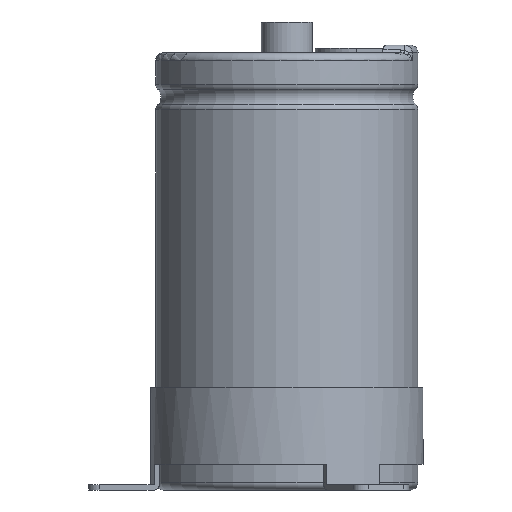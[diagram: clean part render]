
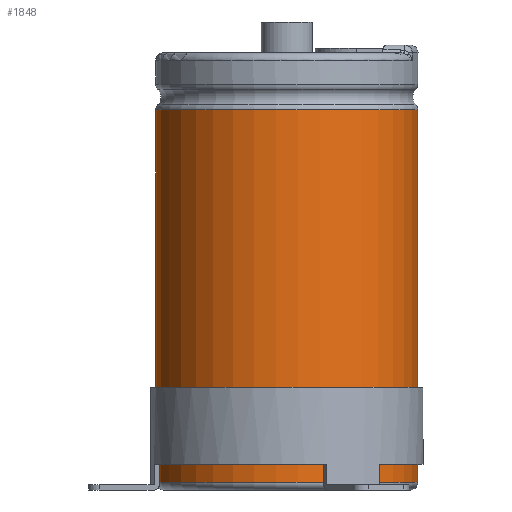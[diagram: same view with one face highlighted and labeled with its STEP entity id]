
A CAD part, front view. The second image highlights one B-rep face of the part: STEP entity #1848.
In plain terms, the highlighted cylindrical face has radius 25.5 mm (diameter 51 mm), a partial arc.
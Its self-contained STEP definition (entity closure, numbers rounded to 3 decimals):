
#370=LINE('',#9285,#608);
#371=LINE('',#9289,#609);
#608=VECTOR('',#6925,1.);
#609=VECTOR('',#6928,1.);
#1457=FACE_OUTER_BOUND('',#2362,.T.);
#1848=ADVANCED_FACE('',(#1457),#1998,.T.);
#1998=CYLINDRICAL_SURFACE('',#5769,25.5);
#2362=EDGE_LOOP('',(#3435,#3436,#3437,#3438));
#3435=ORIENTED_EDGE('',*,*,#4849,.T.);
#3436=ORIENTED_EDGE('',*,*,#4850,.T.);
#3437=ORIENTED_EDGE('',*,*,#4851,.F.);
#3438=ORIENTED_EDGE('',*,*,#4852,.F.);
#4222=VERTEX_POINT('',#9278);
#4224=VERTEX_POINT('',#9282);
#4225=VERTEX_POINT('',#9286);
#4226=VERTEX_POINT('',#9288);
#4849=EDGE_CURVE('',#4222,#4224,#5258,.T.);
#4850=EDGE_CURVE('',#4224,#4225,#370,.T.);
#4851=EDGE_CURVE('',#4226,#4225,#5259,.T.);
#4852=EDGE_CURVE('',#4222,#4226,#371,.T.);
#5258=CIRCLE('',#5766,25.5);
#5259=CIRCLE('',#5768,25.5);
#5766=AXIS2_PLACEMENT_3D('',#9283,#6921,#6922);
#5768=AXIS2_PLACEMENT_3D('',#9287,#6926,#6927);
#5769=AXIS2_PLACEMENT_3D('',#9290,#6929,#6930);
#6921=DIRECTION('',(0.,0.,-1.));
#6922=DIRECTION('',(0.,1.,0.));
#6925=DIRECTION('',(0.,0.,-1.));
#6926=DIRECTION('',(0.,0.,-1.));
#6927=DIRECTION('',(0.,1.,0.));
#6928=DIRECTION('',(0.,0.,-1.));
#6929=DIRECTION('',(0.,0.,-1.));
#6930=DIRECTION('',(0.,1.,0.));
#9278=CARTESIAN_POINT('',(3.989,25.186,73.9));
#9282=CARTESIAN_POINT('',(-3.989,25.186,73.9));
#9283=CARTESIAN_POINT('',(0.,0.,73.9));
#9285=CARTESIAN_POINT('',(-3.989,25.186,73.9));
#9286=CARTESIAN_POINT('',(-3.989,25.186,1.5));
#9287=CARTESIAN_POINT('',(0.,0.,1.5));
#9288=CARTESIAN_POINT('',(3.989,25.186,1.5));
#9289=CARTESIAN_POINT('',(3.989,25.186,73.9));
#9290=CARTESIAN_POINT('',(0.,0.,0.));
